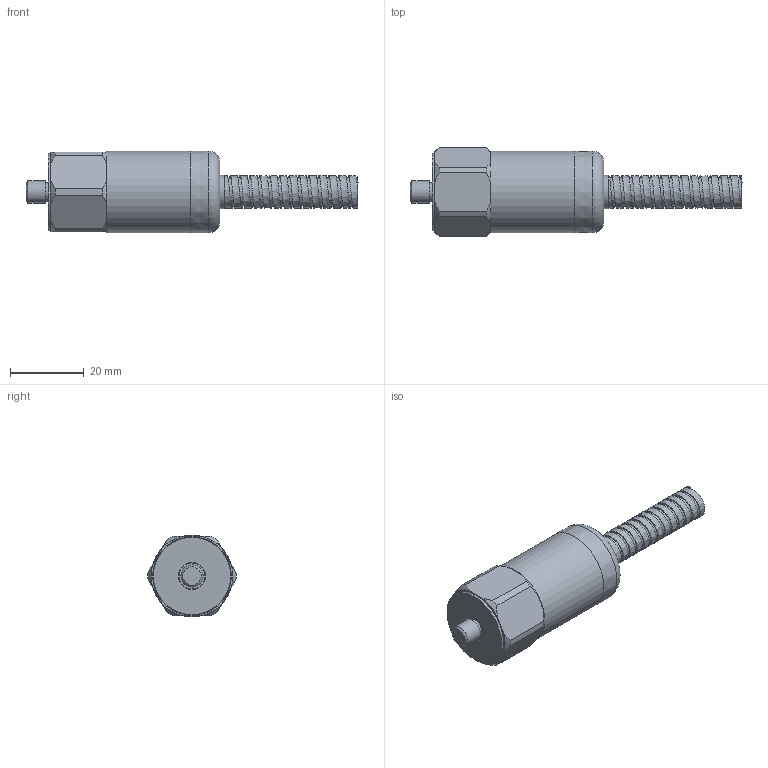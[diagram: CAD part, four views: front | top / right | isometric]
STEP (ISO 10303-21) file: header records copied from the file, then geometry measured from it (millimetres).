
FILE_DESCRIPTION(/* description */ (''),/* implementation_level */ '2;1');
FILE_NAME(/* name */ 'Z:\Engineering\Drawings\3D Library\Assemblies\Website\Premium Top\HS-150 Top FEP Cable with Protective Conduit\HS-150XXX30C06.stp',/* time_stamp */ '2023-03-02T22:51:01+00:00',/* author */ ('Ricardo.Peneda'),/* organization */ (''),/* preprocessor_version */ 'ST-DEVELOPER v18.1',/* originating_system */ 'Autodesk Inventor 2021',/* authorisation */ '');
FILE_SCHEMA (('AUTOMOTIVE_DESIGN { 1 0 10303 214 3 1 1 }'));
Length unit declared in the file: inch
Products named in the file (1): HS-150XXX30C06_Shrinkwrap_1
Bounding box: 90.3 x 23.99 x 22.22 mm (x, y, z)
Volume: 12866 mm3; surface area: 10446.1 mm2
Topology: 4 solids, 4 shells, 92 faces, 247 edges, 172 vertices
Faces by surface type: cone 35, plane 30, cylinder 18, bspline 8, torus 1
Full cylindrical faces by diameter (mm): 5 x2, 5.359 x1, 6 x1, 6.35 x1, 7 x1, 7.5 x1, 9 x1, 15.055 x1, 20 x1, 21 x1, 22.2 x1
Entity records: 17055 total; most frequent: CARTESIAN_POINT 14577, DIRECTION 506, ORIENTED_EDGE 492, EDGE_CURVE 246, AXIS2_PLACEMENT_3D 215, VERTEX_POINT 172, CIRCLE 130, EDGE_LOOP 104
